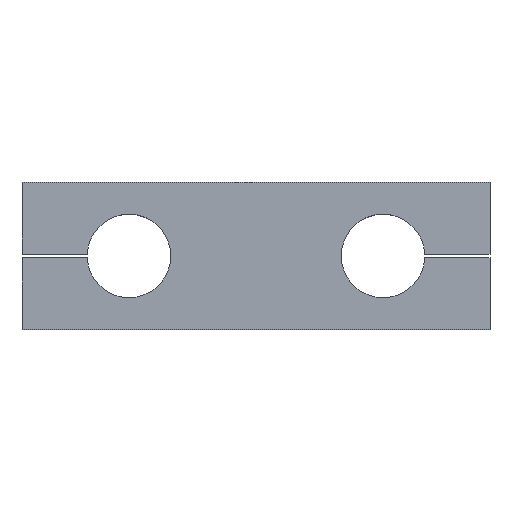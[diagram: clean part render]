
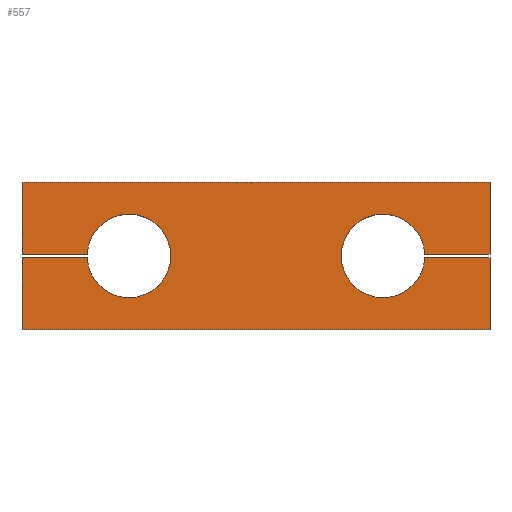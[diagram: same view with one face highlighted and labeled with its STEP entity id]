
A CAD part, top view. The second image highlights one B-rep face of the part: STEP entity #557.
In plain terms, the highlighted planar face has unit normal (0, 0, 1).
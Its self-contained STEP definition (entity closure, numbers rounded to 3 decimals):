
#2 = CARTESIAN_POINT ( 'NONE',  ( 75., 1.075, 15. ) ) ;
#3 = VERTEX_POINT ( 'NONE', #1326 ) ;
#5 = CARTESIAN_POINT ( 'NONE',  ( -140., 1.075, 15. ) ) ;
#18 = ORIENTED_EDGE ( 'NONE', *, *, #1315, .T. ) ;
#37 = CARTESIAN_POINT ( 'NONE',  ( -140., -44., 15. ) ) ;
#55 = CARTESIAN_POINT ( 'NONE',  ( 76., 0., 15. ) ) ;
#56 = EDGE_CURVE ( 'NONE', #863, #1225, #1229, .T. ) ;
#59 = CARTESIAN_POINT ( 'NONE',  ( -140., 1.075, 15. ) ) ;
#60 = EDGE_CURVE ( 'NONE', #3, #816, #75, .T. ) ;
#75 = LINE ( 'NONE', #392, #895 ) ;
#84 = DIRECTION ( 'NONE',  ( 1., 0., 0. ) ) ;
#86 = ORIENTED_EDGE ( 'NONE', *, *, #1112, .T. ) ;
#117 = VECTOR ( 'NONE', #780, 1000. ) ;
#132 = EDGE_CURVE ( 'NONE', #863, #881, #1249, .T. ) ;
#147 = VECTOR ( 'NONE', #1001, 1000. ) ;
#174 = LINE ( 'NONE', #59, #1242 ) ;
#201 = DIRECTION ( 'NONE',  ( 0., -1., 0. ) ) ;
#213 = VECTOR ( 'NONE', #682, 1000. ) ;
#245 = DIRECTION ( 'NONE',  ( 1., 0., 0. ) ) ;
#264 = CARTESIAN_POINT ( 'NONE',  ( 140., 44., 15. ) ) ;
#273 = CARTESIAN_POINT ( 'NONE',  ( -140., 44., 15. ) ) ;
#295 = VECTOR ( 'NONE', #245, 1000. ) ;
#311 = CIRCLE ( 'NONE', #1170, 25. ) ;
#325 = ORIENTED_EDGE ( 'NONE', *, *, #1213, .F. ) ;
#353 = AXIS2_PLACEMENT_3D ( 'NONE', #757, #1062, #872 ) ;
#355 = CARTESIAN_POINT ( 'NONE',  ( -76., 0., 15. ) ) ;
#366 = DIRECTION ( 'NONE',  ( 1., 0., 0. ) ) ;
#367 = CARTESIAN_POINT ( 'NONE',  ( 140., -1.075, 15. ) ) ;
#369 = CARTESIAN_POINT ( 'NONE',  ( -100.977, 1.075, 15. ) ) ;
#388 = EDGE_CURVE ( 'NONE', #3, #836, #1166, .T. ) ;
#389 = CARTESIAN_POINT ( 'NONE',  ( 100.977, -1.075, 15. ) ) ;
#392 = CARTESIAN_POINT ( 'NONE',  ( -140., 44., 15. ) ) ;
#393 = EDGE_CURVE ( 'NONE', #1292, #1195, #1085, .T. ) ;
#398 = ORIENTED_EDGE ( 'NONE', *, *, #558, .F. ) ;
#405 = VECTOR ( 'NONE', #820, 1000. ) ;
#468 = LINE ( 'NONE', #779, #213 ) ;
#469 = CARTESIAN_POINT ( 'NONE',  ( 140., 44., 15. ) ) ;
#483 = LINE ( 'NONE', #695, #660 ) ;
#494 = LINE ( 'NONE', #273, #1004 ) ;
#507 = ORIENTED_EDGE ( 'NONE', *, *, #56, .T. ) ;
#543 = ORIENTED_EDGE ( 'NONE', *, *, #1168, .T. ) ;
#557 = ADVANCED_FACE ( 'NONE', ( #1281 ), #853, .T. ) ;
#558 = EDGE_CURVE ( 'NONE', #836, #707, #311, .T. ) ;
#565 = ORIENTED_EDGE ( 'NONE', *, *, #393, .F. ) ;
#566 = DIRECTION ( 'NONE',  ( 0., 0., 1. ) ) ;
#576 = ORIENTED_EDGE ( 'NONE', *, *, #659, .F. ) ;
#577 = CARTESIAN_POINT ( 'NONE',  ( 75., -1.075, 15. ) ) ;
#588 = EDGE_LOOP ( 'NONE', ( #325, #576, #398, #718, #1223, #86, #543, #565, #753, #1255, #507, #18, #968 ) ) ;
#624 = VERTEX_POINT ( 'NONE', #369 ) ;
#635 = EDGE_CURVE ( 'NONE', #873, #675, #494, .T. ) ;
#659 = EDGE_CURVE ( 'NONE', #707, #624, #702, .T. ) ;
#660 = VECTOR ( 'NONE', #1212, 1000. ) ;
#668 = CARTESIAN_POINT ( 'NONE',  ( 140., -44., 15. ) ) ;
#675 = VERTEX_POINT ( 'NONE', #5 ) ;
#682 = DIRECTION ( 'NONE',  ( 1., 0., 0. ) ) ;
#684 = AXIS2_PLACEMENT_3D ( 'NONE', #55, #875, #366 ) ;
#686 = DIRECTION ( 'NONE',  ( 0., -1., 0. ) ) ;
#695 = CARTESIAN_POINT ( 'NONE',  ( -140., 44., 15. ) ) ;
#702 = CIRCLE ( 'NONE', #1107, 25. ) ;
#707 = VERTEX_POINT ( 'NONE', #1241 ) ;
#718 = ORIENTED_EDGE ( 'NONE', *, *, #388, .F. ) ;
#753 = ORIENTED_EDGE ( 'NONE', *, *, #1109, .F. ) ;
#757 = CARTESIAN_POINT ( 'NONE',  ( 0., 0., 15. ) ) ;
#770 = DIRECTION ( 'NONE',  ( 1., 0., 0. ) ) ;
#779 = CARTESIAN_POINT ( 'NONE',  ( -140., -44., 15. ) ) ;
#780 = DIRECTION ( 'NONE',  ( 0., 1., 0. ) ) ;
#797 = CARTESIAN_POINT ( 'NONE',  ( 140., 44., 15. ) ) ;
#798 = DIRECTION ( 'NONE',  ( -1., 0., 0. ) ) ;
#816 = VERTEX_POINT ( 'NONE', #37 ) ;
#820 = DIRECTION ( 'NONE',  ( -1., 0., 0. ) ) ;
#822 = CARTESIAN_POINT ( 'NONE',  ( -140., 44., 15. ) ) ;
#836 = VERTEX_POINT ( 'NONE', #1020 ) ;
#853 = PLANE ( 'NONE',  #353 ) ;
#863 = VERTEX_POINT ( 'NONE', #1015 ) ;
#872 = DIRECTION ( 'NONE',  ( 1., 0., 0. ) ) ;
#873 = VERTEX_POINT ( 'NONE', #822 ) ;
#875 = DIRECTION ( 'NONE',  ( 0., 0., 1. ) ) ;
#881 = VERTEX_POINT ( 'NONE', #1226 ) ;
#895 = VECTOR ( 'NONE', #201, 1000. ) ;
#952 = DIRECTION ( 'NONE',  ( 1., 0., 0. ) ) ;
#968 = ORIENTED_EDGE ( 'NONE', *, *, #635, .T. ) ;
#969 = CARTESIAN_POINT ( 'NONE',  ( -140., -1.075, 15. ) ) ;
#979 = LINE ( 'NONE', #264, #117 ) ;
#982 = VERTEX_POINT ( 'NONE', #668 ) ;
#983 = VECTOR ( 'NONE', #952, 1000. ) ;
#1001 = DIRECTION ( 'NONE',  ( 0., 1., 0. ) ) ;
#1004 = VECTOR ( 'NONE', #686, 1000. ) ;
#1015 = CARTESIAN_POINT ( 'NONE',  ( 140., 1.075, 15. ) ) ;
#1020 = CARTESIAN_POINT ( 'NONE',  ( -100.977, -1.075, 15. ) ) ;
#1062 = DIRECTION ( 'NONE',  ( 0., 0., 1. ) ) ;
#1085 = LINE ( 'NONE', #577, #983 ) ;
#1107 = AXIS2_PLACEMENT_3D ( 'NONE', #1201, #1305, #84 ) ;
#1109 = EDGE_CURVE ( 'NONE', #881, #1292, #1111, .T. ) ;
#1111 = CIRCLE ( 'NONE', #684, 25. ) ;
#1112 = EDGE_CURVE ( 'NONE', #816, #982, #468, .T. ) ;
#1166 = LINE ( 'NONE', #969, #295 ) ;
#1168 = EDGE_CURVE ( 'NONE', #982, #1195, #979, .T. ) ;
#1170 = AXIS2_PLACEMENT_3D ( 'NONE', #355, #566, #770 ) ;
#1195 = VERTEX_POINT ( 'NONE', #367 ) ;
#1201 = CARTESIAN_POINT ( 'NONE',  ( -76., 0., 15. ) ) ;
#1212 = DIRECTION ( 'NONE',  ( -1., 0., 0. ) ) ;
#1213 = EDGE_CURVE ( 'NONE', #624, #675, #174, .T. ) ;
#1223 = ORIENTED_EDGE ( 'NONE', *, *, #60, .T. ) ;
#1225 = VERTEX_POINT ( 'NONE', #469 ) ;
#1226 = CARTESIAN_POINT ( 'NONE',  ( 100.977, 1.075, 15. ) ) ;
#1229 = LINE ( 'NONE', #797, #147 ) ;
#1241 = CARTESIAN_POINT ( 'NONE',  ( -51., 0., 15. ) ) ;
#1242 = VECTOR ( 'NONE', #798, 1000. ) ;
#1249 = LINE ( 'NONE', #2, #405 ) ;
#1255 = ORIENTED_EDGE ( 'NONE', *, *, #132, .F. ) ;
#1281 = FACE_OUTER_BOUND ( 'NONE', #588, .T. ) ;
#1292 = VERTEX_POINT ( 'NONE', #389 ) ;
#1305 = DIRECTION ( 'NONE',  ( 0., 0., 1. ) ) ;
#1315 = EDGE_CURVE ( 'NONE', #1225, #873, #483, .T. ) ;
#1326 = CARTESIAN_POINT ( 'NONE',  ( -140., -1.075, 15. ) ) ;
